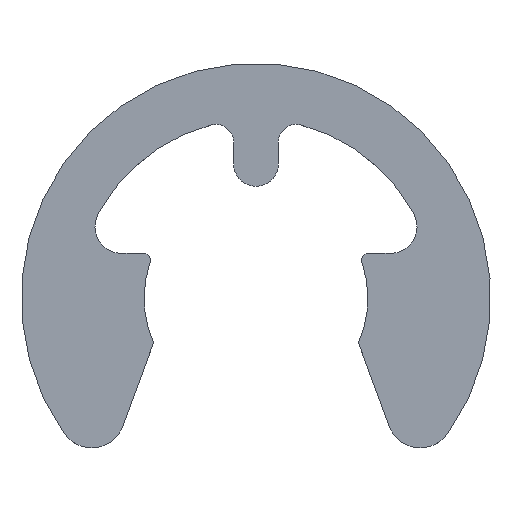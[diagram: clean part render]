
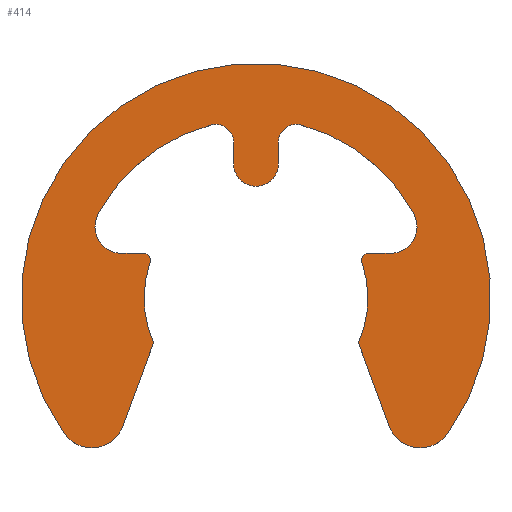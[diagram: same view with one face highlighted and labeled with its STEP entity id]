
A CAD part, top view. The second image highlights one B-rep face of the part: STEP entity #414.
In plain terms, the highlighted planar face has unit normal (0, 0, 1).
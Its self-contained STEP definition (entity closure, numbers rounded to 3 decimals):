
#22=PLANE('',#487);
#44=FACE_OUTER_BOUND('',#66,.T.);
#66=EDGE_LOOP('',(#359,#360,#361,#362,#363,#364,#365,#366,#367,#368,#369,
#370,#371,#372,#373,#374,#375,#376,#377,#378));
#70=LINE('',#640,#102);
#75=LINE('',#658,#107);
#81=LINE('',#682,#113);
#85=LINE('',#694,#117);
#91=LINE('',#718,#123);
#96=LINE('',#736,#128);
#102=VECTOR('',#507,10.);
#107=VECTOR('',#526,10.);
#113=VECTOR('',#552,10.);
#117=VECTOR('',#564,10.);
#123=VECTOR('',#590,10.);
#128=VECTOR('',#609,10.);
#131=CIRCLE('',#439,8.4);
#133=CIRCLE('',#442,1.2);
#135=CIRCLE('',#446,4.);
#137=CIRCLE('',#449,0.24);
#139=CIRCLE('',#453,0.96);
#141=CIRCLE('',#456,6.4);
#143=CIRCLE('',#459,0.64);
#145=CIRCLE('',#463,0.8);
#147=CIRCLE('',#467,0.64);
#149=CIRCLE('',#470,6.4);
#151=CIRCLE('',#473,0.96);
#153=CIRCLE('',#477,0.24);
#155=CIRCLE('',#480,4.);
#157=CIRCLE('',#484,1.2);
#159=VERTEX_POINT('',#624);
#160=VERTEX_POINT('',#625);
#163=VERTEX_POINT('',#633);
#165=VERTEX_POINT('',#639);
#167=VERTEX_POINT('',#645);
#169=VERTEX_POINT('',#651);
#171=VERTEX_POINT('',#657);
#173=VERTEX_POINT('',#663);
#175=VERTEX_POINT('',#669);
#177=VERTEX_POINT('',#675);
#179=VERTEX_POINT('',#681);
#181=VERTEX_POINT('',#687);
#183=VERTEX_POINT('',#693);
#185=VERTEX_POINT('',#699);
#187=VERTEX_POINT('',#705);
#189=VERTEX_POINT('',#711);
#191=VERTEX_POINT('',#717);
#193=VERTEX_POINT('',#723);
#195=VERTEX_POINT('',#729);
#197=VERTEX_POINT('',#735);
#199=EDGE_CURVE('',#159,#160,#131,.T.);
#203=EDGE_CURVE('',#160,#163,#133,.T.);
#206=EDGE_CURVE('',#163,#165,#70,.T.);
#209=EDGE_CURVE('',#165,#167,#135,.T.);
#212=EDGE_CURVE('',#167,#169,#137,.T.);
#215=EDGE_CURVE('',#169,#171,#75,.T.);
#218=EDGE_CURVE('',#171,#173,#139,.T.);
#221=EDGE_CURVE('',#173,#175,#141,.T.);
#224=EDGE_CURVE('',#175,#177,#143,.T.);
#227=EDGE_CURVE('',#177,#179,#81,.T.);
#230=EDGE_CURVE('',#179,#181,#145,.T.);
#233=EDGE_CURVE('',#181,#183,#85,.T.);
#236=EDGE_CURVE('',#183,#185,#147,.T.);
#239=EDGE_CURVE('',#185,#187,#149,.T.);
#242=EDGE_CURVE('',#187,#189,#151,.T.);
#245=EDGE_CURVE('',#189,#191,#91,.T.);
#248=EDGE_CURVE('',#191,#193,#153,.T.);
#251=EDGE_CURVE('',#193,#195,#155,.T.);
#254=EDGE_CURVE('',#195,#197,#96,.T.);
#257=EDGE_CURVE('',#197,#159,#157,.T.);
#359=ORIENTED_EDGE('',*,*,#199,.F.);
#360=ORIENTED_EDGE('',*,*,#257,.F.);
#361=ORIENTED_EDGE('',*,*,#254,.F.);
#362=ORIENTED_EDGE('',*,*,#251,.F.);
#363=ORIENTED_EDGE('',*,*,#248,.F.);
#364=ORIENTED_EDGE('',*,*,#245,.F.);
#365=ORIENTED_EDGE('',*,*,#242,.F.);
#366=ORIENTED_EDGE('',*,*,#239,.F.);
#367=ORIENTED_EDGE('',*,*,#236,.F.);
#368=ORIENTED_EDGE('',*,*,#233,.F.);
#369=ORIENTED_EDGE('',*,*,#230,.F.);
#370=ORIENTED_EDGE('',*,*,#227,.F.);
#371=ORIENTED_EDGE('',*,*,#224,.F.);
#372=ORIENTED_EDGE('',*,*,#221,.F.);
#373=ORIENTED_EDGE('',*,*,#218,.F.);
#374=ORIENTED_EDGE('',*,*,#215,.F.);
#375=ORIENTED_EDGE('',*,*,#212,.F.);
#376=ORIENTED_EDGE('',*,*,#209,.F.);
#377=ORIENTED_EDGE('',*,*,#206,.F.);
#378=ORIENTED_EDGE('',*,*,#203,.F.);
#414=ADVANCED_FACE('',(#44),#22,.T.);
#439=AXIS2_PLACEMENT_3D('',#626,#492,#493);
#442=AXIS2_PLACEMENT_3D('',#634,#500,#501);
#446=AXIS2_PLACEMENT_3D('',#646,#512,#513);
#449=AXIS2_PLACEMENT_3D('',#652,#519,#520);
#453=AXIS2_PLACEMENT_3D('',#664,#531,#532);
#456=AXIS2_PLACEMENT_3D('',#670,#538,#539);
#459=AXIS2_PLACEMENT_3D('',#676,#545,#546);
#463=AXIS2_PLACEMENT_3D('',#688,#557,#558);
#467=AXIS2_PLACEMENT_3D('',#700,#569,#570);
#470=AXIS2_PLACEMENT_3D('',#706,#576,#577);
#473=AXIS2_PLACEMENT_3D('',#712,#583,#584);
#477=AXIS2_PLACEMENT_3D('',#724,#595,#596);
#480=AXIS2_PLACEMENT_3D('',#730,#602,#603);
#484=AXIS2_PLACEMENT_3D('',#741,#614,#615);
#487=AXIS2_PLACEMENT_3D('',#744,#620,#621);
#492=DIRECTION('center_axis',(0.,0.,-1.));
#493=DIRECTION('ref_axis',(0.817,-0.577,0.));
#500=DIRECTION('center_axis',(0.,0.,-1.));
#501=DIRECTION('ref_axis',(-0.939,-0.344,0.));
#507=DIRECTION('',(-0.344,0.939,0.));
#512=DIRECTION('center_axis',(0.,0.,1.));
#513=DIRECTION('ref_axis',(-0.917,0.4,0.));
#519=DIRECTION('center_axis',(0.,0.,-1.));
#520=DIRECTION('ref_axis',(0.,1.,0.));
#526=DIRECTION('',(1.,0.,0.));
#531=DIRECTION('center_axis',(0.,0.,1.));
#532=DIRECTION('ref_axis',(0.,1.,0.));
#538=DIRECTION('center_axis',(0.,0.,1.));
#539=DIRECTION('ref_axis',(-0.882,-0.471,0.));
#545=DIRECTION('center_axis',(0.,0.,1.));
#546=DIRECTION('ref_axis',(-0.25,-0.968,0.));
#552=DIRECTION('',(0.,-1.,0.));
#557=DIRECTION('center_axis',(0.,0.,-1.));
#558=DIRECTION('ref_axis',(-1.,0.,0.));
#564=DIRECTION('',(0.,1.,0.));
#569=DIRECTION('center_axis',(0.,0.,1.));
#570=DIRECTION('ref_axis',(-1.,0.,0.));
#576=DIRECTION('center_axis',(0.,0.,1.));
#577=DIRECTION('ref_axis',(0.25,-0.968,0.));
#583=DIRECTION('center_axis',(0.,0.,1.));
#584=DIRECTION('ref_axis',(0.882,-0.471,0.));
#590=DIRECTION('',(1.,0.,0.));
#595=DIRECTION('center_axis',(0.,0.,-1.));
#596=DIRECTION('ref_axis',(0.947,-0.321,0.));
#602=DIRECTION('center_axis',(0.,0.,1.));
#603=DIRECTION('ref_axis',(0.947,-0.321,0.));
#609=DIRECTION('',(-0.344,-0.939,0.));
#614=DIRECTION('center_axis',(0.,0.,-1.));
#615=DIRECTION('ref_axis',(-0.817,-0.577,0.));
#620=DIRECTION('center_axis',(0.,0.,1.));
#621=DIRECTION('ref_axis',(1.,0.,0.));
#624=CARTESIAN_POINT('',(-6.861,-9.823,0.9));
#625=CARTESIAN_POINT('',(6.861,-9.823,0.9));
#626=CARTESIAN_POINT('Origin',(0.,-4.976,0.9));
#633=CARTESIAN_POINT('',(4.754,-9.544,0.9));
#634=CARTESIAN_POINT('Origin',(5.881,-9.131,0.9));
#639=CARTESIAN_POINT('',(3.666,-6.576,0.9));
#640=CARTESIAN_POINT('',(3.666,-6.576,0.9));
#645=CARTESIAN_POINT('',(3.789,-3.693,0.9));
#646=CARTESIAN_POINT('Origin',(0.,-4.976,0.9));
#651=CARTESIAN_POINT('',(4.016,-3.376,0.9));
#652=CARTESIAN_POINT('Origin',(4.016,-3.616,0.9));
#657=CARTESIAN_POINT('',(4.8,-3.376,0.9));
#658=CARTESIAN_POINT('',(4.8,-3.376,0.9));
#663=CARTESIAN_POINT('',(5.647,-1.965,0.9));
#664=CARTESIAN_POINT('Origin',(4.8,-2.416,0.9));
#669=CARTESIAN_POINT('',(1.6,1.22,0.9));
#670=CARTESIAN_POINT('Origin',(0.,-4.976,0.9));
#675=CARTESIAN_POINT('',(0.8,0.601,0.9));
#676=CARTESIAN_POINT('Origin',(1.44,0.601,0.9));
#681=CARTESIAN_POINT('',(0.8,-0.176,0.9));
#682=CARTESIAN_POINT('',(0.8,-0.176,0.9));
#687=CARTESIAN_POINT('',(-0.8,-0.176,0.9));
#688=CARTESIAN_POINT('Origin',(0.,-0.176,0.9));
#693=CARTESIAN_POINT('',(-0.8,0.601,0.9));
#694=CARTESIAN_POINT('',(-0.8,0.601,0.9));
#699=CARTESIAN_POINT('',(-1.6,1.22,0.9));
#700=CARTESIAN_POINT('Origin',(-1.44,0.601,0.9));
#705=CARTESIAN_POINT('',(-5.647,-1.965,0.9));
#706=CARTESIAN_POINT('Origin',(0.,-4.976,0.9));
#711=CARTESIAN_POINT('',(-4.8,-3.376,0.9));
#712=CARTESIAN_POINT('Origin',(-4.8,-2.416,0.9));
#717=CARTESIAN_POINT('',(-4.016,-3.376,0.9));
#718=CARTESIAN_POINT('',(-4.016,-3.376,0.9));
#723=CARTESIAN_POINT('',(-3.789,-3.693,0.9));
#724=CARTESIAN_POINT('Origin',(-4.016,-3.616,0.9));
#729=CARTESIAN_POINT('',(-3.666,-6.576,0.9));
#730=CARTESIAN_POINT('Origin',(0.,-4.976,0.9));
#735=CARTESIAN_POINT('',(-4.754,-9.544,0.9));
#736=CARTESIAN_POINT('',(-4.754,-9.544,0.9));
#741=CARTESIAN_POINT('Origin',(-5.881,-9.131,0.9));
#744=CARTESIAN_POINT('Origin',(0.,-2.913,0.9));
